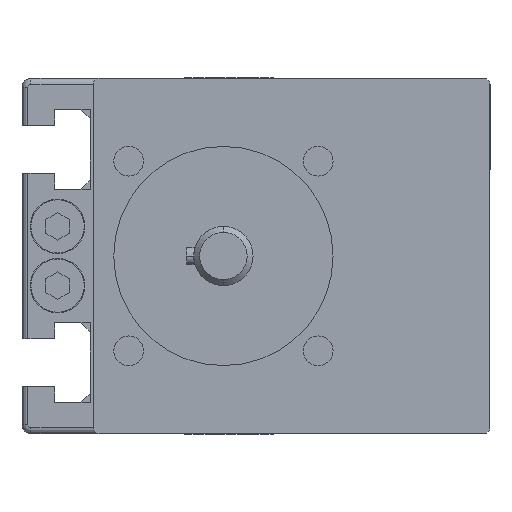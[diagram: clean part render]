
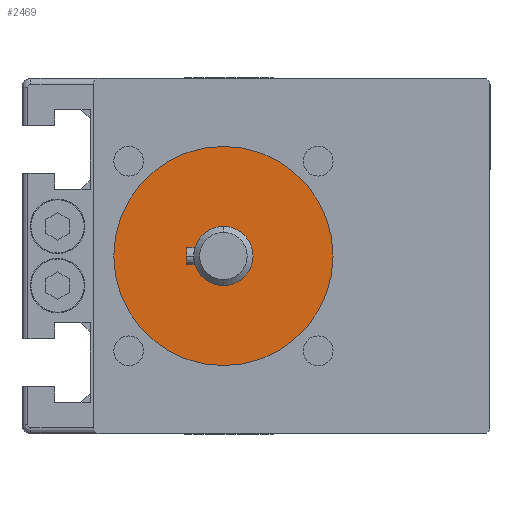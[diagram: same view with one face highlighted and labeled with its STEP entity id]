
A CAD part, left-side view. The second image highlights one B-rep face of the part: STEP entity #2469.
In plain terms, the highlighted planar face has unit normal (-1, 0, 0) as drawn and (1, 0, 0) by its records, which use the part's own axes.
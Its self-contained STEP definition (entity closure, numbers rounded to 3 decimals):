
#178 = EDGE_CURVE ( 'NONE', #5065, #9445, #6804, .T. ) ;
#235 = EDGE_LOOP ( 'NONE', ( #5170, #374 ) ) ;
#374 = ORIENTED_EDGE ( 'NONE', *, *, #7867, .F. ) ;
#864 = AXIS2_PLACEMENT_3D ( 'NONE', #8061, #4436, #2934 ) ;
#1140 = DIRECTION ( 'NONE',  ( 0., 0., -1. ) ) ;
#1513 = AXIS2_PLACEMENT_3D ( 'NONE', #2639, #2576, #2564 ) ;
#1569 = AXIS2_PLACEMENT_3D ( 'NONE', #3000, #6768, #1140 ) ;
#1980 = CIRCLE ( 'NONE', #864, 5. ) ;
#2299 = CARTESIAN_POINT ( 'NONE',  ( -2., 0., -18.5 ) ) ;
#2469 = ADVANCED_FACE ( 'NONE', ( #4032, #5998 ), #8812, .T. ) ;
#2564 = DIRECTION ( 'NONE',  ( 0., 0., -1. ) ) ;
#2576 = DIRECTION ( 'NONE',  ( 1., 0., 0. ) ) ;
#2639 = CARTESIAN_POINT ( 'NONE',  ( -2., 0., 0. ) ) ;
#2934 = DIRECTION ( 'NONE',  ( 0., 0., -1. ) ) ;
#3000 = CARTESIAN_POINT ( 'NONE',  ( -2., 0., 0. ) ) ;
#3251 = AXIS2_PLACEMENT_3D ( 'NONE', #9028, #6560, #7997 ) ;
#3932 = CIRCLE ( 'NONE', #7174, 18.5 ) ;
#3976 = CIRCLE ( 'NONE', #1569, 5. ) ;
#4032 = FACE_OUTER_BOUND ( 'NONE', #6165, .T. ) ;
#4292 = VERTEX_POINT ( 'NONE', #7382 ) ;
#4436 = DIRECTION ( 'NONE',  ( 1., 0., 0. ) ) ;
#4465 = CARTESIAN_POINT ( 'NONE',  ( -2., 0., 18.5 ) ) ;
#4953 = ORIENTED_EDGE ( 'NONE', *, *, #178, .T. ) ;
#5065 = VERTEX_POINT ( 'NONE', #2299 ) ;
#5170 = ORIENTED_EDGE ( 'NONE', *, *, #8076, .F. ) ;
#5998 = FACE_BOUND ( 'NONE', #235, .T. ) ;
#6165 = EDGE_LOOP ( 'NONE', ( #4953, #6762 ) ) ;
#6555 = DIRECTION ( 'NONE',  ( 0., 0., -1. ) ) ;
#6560 = DIRECTION ( 'NONE',  ( 1., 0., 0. ) ) ;
#6590 = DIRECTION ( 'NONE',  ( 1., 0., 0. ) ) ;
#6621 = CARTESIAN_POINT ( 'NONE',  ( -2., 0., 0. ) ) ;
#6762 = ORIENTED_EDGE ( 'NONE', *, *, #8681, .T. ) ;
#6768 = DIRECTION ( 'NONE',  ( 1., 0., 0. ) ) ;
#6804 = CIRCLE ( 'NONE', #1513, 18.5 ) ;
#7174 = AXIS2_PLACEMENT_3D ( 'NONE', #6621, #6590, #6555 ) ;
#7195 = VERTEX_POINT ( 'NONE', #9063 ) ;
#7382 = CARTESIAN_POINT ( 'NONE',  ( -2., 0., -5. ) ) ;
#7867 = EDGE_CURVE ( 'NONE', #4292, #7195, #3976, .T. ) ;
#7997 = DIRECTION ( 'NONE',  ( 0., 0., -1. ) ) ;
#8061 = CARTESIAN_POINT ( 'NONE',  ( -2., 0., 0. ) ) ;
#8076 = EDGE_CURVE ( 'NONE', #7195, #4292, #1980, .T. ) ;
#8681 = EDGE_CURVE ( 'NONE', #9445, #5065, #3932, .T. ) ;
#8812 = PLANE ( 'NONE',  #3251 ) ;
#9028 = CARTESIAN_POINT ( 'NONE',  ( -2., 0., 0. ) ) ;
#9063 = CARTESIAN_POINT ( 'NONE',  ( -2., 0., 5. ) ) ;
#9445 = VERTEX_POINT ( 'NONE', #4465 ) ;
